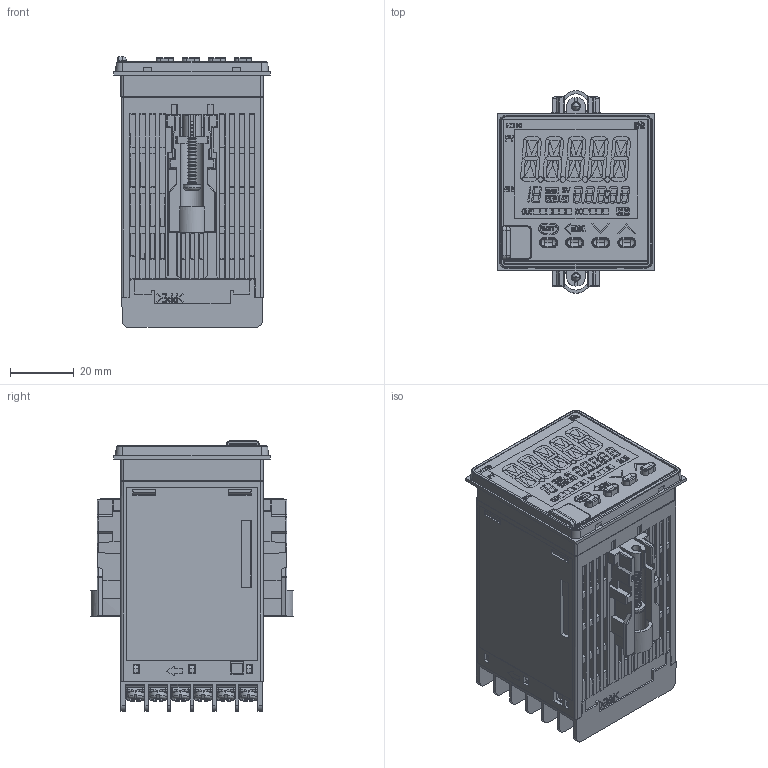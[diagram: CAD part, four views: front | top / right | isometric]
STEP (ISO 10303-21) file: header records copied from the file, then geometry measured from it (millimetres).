
FILE_DESCRIPTION (( 'STEP AP203' ), '1' );
FILE_NAME ('YIFZ100-10(0).STEP', '2019-05-31T04:16:20', ( '' ), ( '' ), 'SwSTEP 2.0', 'SolidWorks 2018', '' );
FILE_SCHEMA (( 'CONFIG_CONTROL_DESIGN' ));
Products named in the file (4): FZ100(基本設計)(1)_WEB_FZ100基本設計; KRB100-39_WEB; KRZ400-520_WEB; YIFZ100-10(0)
Assembly tree (4 placements, depth 2):
  YIFZ100-10(0)
    FZ100(基本設計)(1)_WEB_FZ100基本設計
    KRB100-39_WEB
    KRZ400-520_WEB  x2
Bounding box: 49.2 x 63.65 x 85.1 mm (x, y, z)
Volume: 157801.2 mm3; surface area: 37563.7 mm2
Topology: 6 solids, 14 shells, 6345 faces, 16992 edges, 10938 vertices
Faces by surface type: plane 4229, bspline 989, cylinder 749, cone 208, sphere 116, torus 54
Entity records: 199796 total; most frequent: CARTESIAN_POINT 60968, ORIENTED_EDGE 30766, DIRECTION 24911, EDGE_CURVE 15383, LINE 11841, VECTOR 11841, VERTEX_POINT 9987, AXIS2_PLACEMENT_3D 6535
